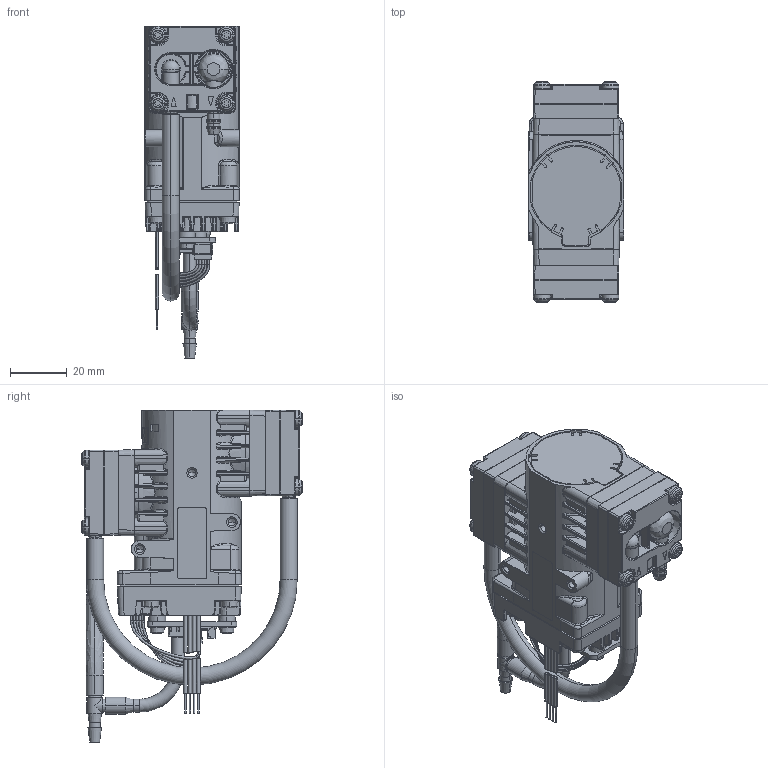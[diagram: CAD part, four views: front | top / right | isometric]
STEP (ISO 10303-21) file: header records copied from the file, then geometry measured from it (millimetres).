
FILE_DESCRIPTION((''),'2;1');
FILE_NAME('NVC830-3KPDC-BI4','2025-11-26T14:09:37',('LuternauerR'),('KNF Flodos AG, 6210 Sursee, Switzerland'),'CREO PARAMETRIC BY PTC INC, 2024401','CREO PARAMETRIC BY PTC INC, 2024401','');
FILE_SCHEMA(('AP242_MANAGED_MODEL_BASED_3D_ENGINEERING_MIM_LF { 1 0 10303 442 1 1 4 }'));
Length unit declared in the file: millimetre
Products named in the file (1): NVC830-3KPDC-BI4
Bounding box: 33.5 x 77.38 x 116.58 mm (x, y, z)
Volume: 118735.5 mm3; surface area: 37850.9 mm2
Topology: 9 solids, 9 shells, 4762 faces, 12048 edges, 7351 vertices
Faces by surface type: plane 1781, cylinder 1306, bspline 951, cone 318, sphere 180, torus 167, extrusion 59
Entity records: 261347 total; most frequent: CARTESIAN_POINT 120405, ORIENTED_EDGE 24006, DIRECTION 20088, EDGE_CURVE 12003, VERTEX_POINT 7351, AXIS2_PLACEMENT_3D 7147, VECTOR 5794, LINE 5735
